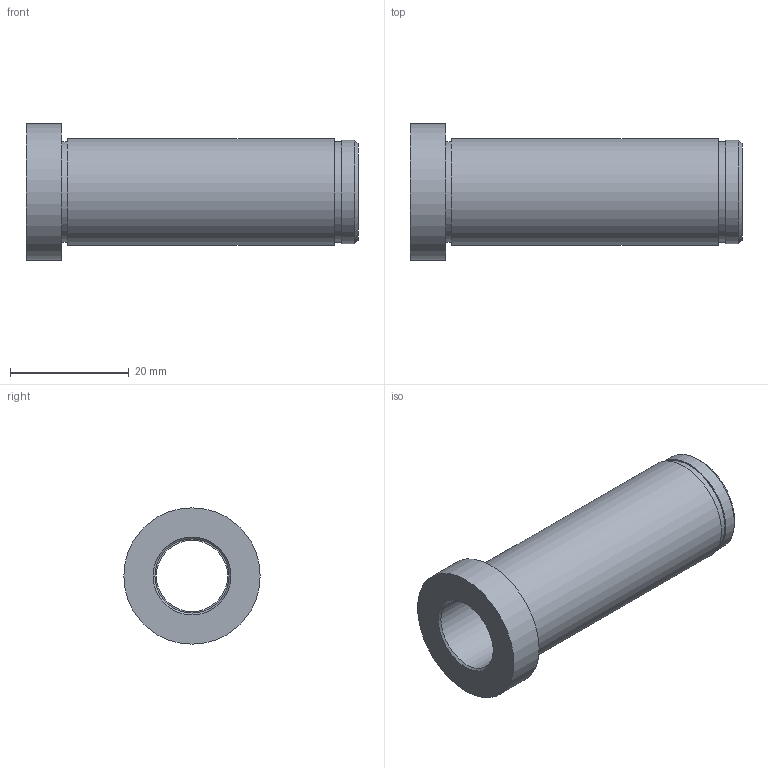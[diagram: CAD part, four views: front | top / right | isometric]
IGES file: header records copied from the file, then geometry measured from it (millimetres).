
Global section: file name: BG05.012056.ipt; native system: Autodesk Inventor 2021; preprocessor: unknown; author: SM; date: 20211221.172609; units: millimetre
Bounding box: 56 x 23 x 23 mm (x, y, z)
Volume: 8458.6 mm3; surface area: 6061.9 mm2
Topology: 1 solids, 1 shells, 17 faces, 31 edges, 21 vertices
Faces by surface type: plane 7, cylinder 5, revolution 4, cone 1
Full cylindrical faces by diameter (mm): 17 x2, 17.5 x1, 18 x1, 23 x1
